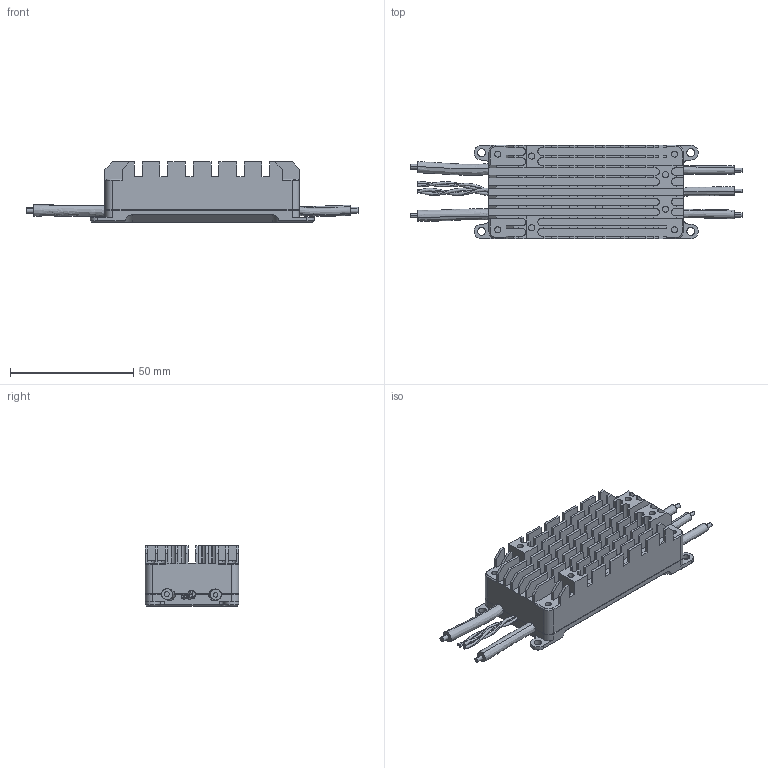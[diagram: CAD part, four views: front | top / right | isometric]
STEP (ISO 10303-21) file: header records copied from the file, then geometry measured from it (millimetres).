
FILE_DESCRIPTION (( 'STEP AP203' ), '1' );
FILE_NAME ('T Pro V3 Enclosure.STEP', '2025-12-12T09:40:26', ( '' ), ( '' ), 'STEP 2.0', 'RD_CAD', '' );
FILE_SCHEMA (( 'CONFIG_CONTROL_DESIGN' ));
Length unit declared in the file: millimetre
Products named in the file (1): T Pro V3 Enclosure
Bounding box: 134.86 x 37.98 x 24.5 mm (x, y, z)
Volume: 55772.5 mm3; surface area: 25698.8 mm2
Topology: 1 solids, 1 shells, 746 faces, 2104 edges, 1369 vertices
Faces by surface type: plane 501, cylinder 181, cone 38, bspline 18, torus 8
Entity records: 29820 total; most frequent: CARTESIAN_POINT 10450, ORIENTED_EDGE 4192, DIRECTION 3819, EDGE_CURVE 2096, LINE 1541, VECTOR 1541, VERTEX_POINT 1369, AXIS2_PLACEMENT_3D 1139
